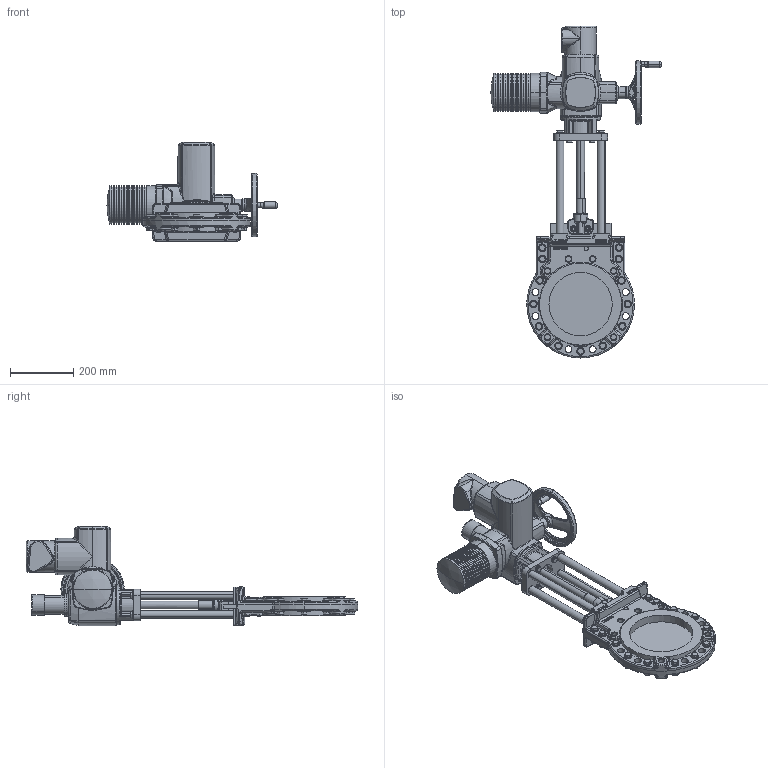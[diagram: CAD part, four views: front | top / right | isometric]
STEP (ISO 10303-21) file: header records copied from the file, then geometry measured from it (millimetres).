
FILE_DESCRIPTION (( 'STEP AP214' ), '1' );
FILE_NAME ('MGE DN 0200 PN16 (SA 10.2).STEP', '2015-09-23T08:46:42', ( 'admin' ), ( 'Hewlett-Packard Company' ), 'SwSTEP 2.0', 'SolidWorks 2013', '' );
FILE_SCHEMA (( 'AUTOMOTIVE_DESIGN' ));
Length unit declared in the file: millimetre
Products named in the file (1): MGE DN 0200 PN16 (SA 10.2)
Bounding box: 537 x 1047.5 x 313 mm (x, y, z)
Volume: 14664046.9 mm3; surface area: 1227883.3 mm2
Topology: 79 solids, 90 shells, 3072 faces, 7032 edges, 4191 vertices
Faces by surface type: plane 1019, cylinder 838, cone 558, bspline 381, torus 240, sphere 36
Entity records: 145894 total; most frequent: CARTESIAN_POINT 44487, ORIENTED_EDGE 13904, DIRECTION 13855, EDGE_CURVE 6952, AXIS2_PLACEMENT_3D 5676, VERTEX_POINT 4191, EDGE_LOOP 3381, UNCERTAINTY_MEASURE_WITH_UNIT 3151
